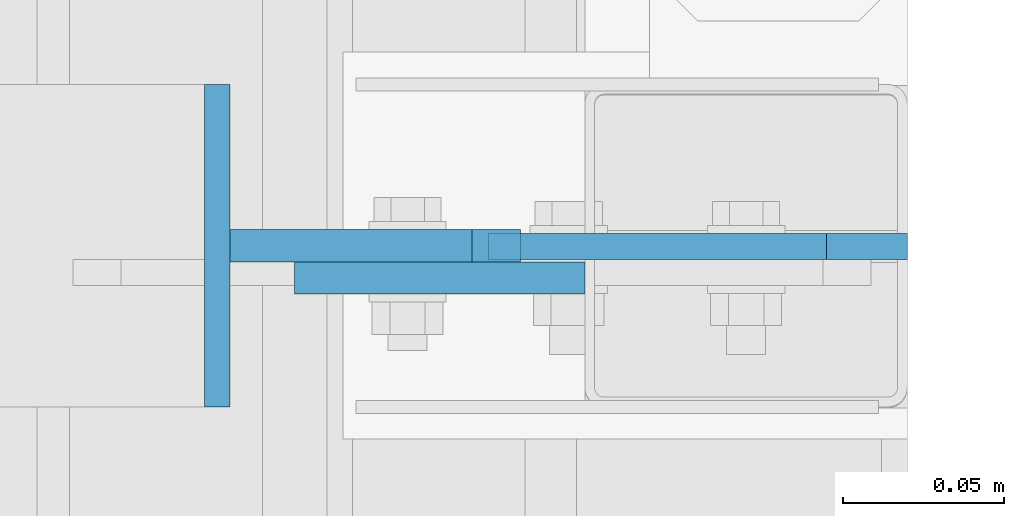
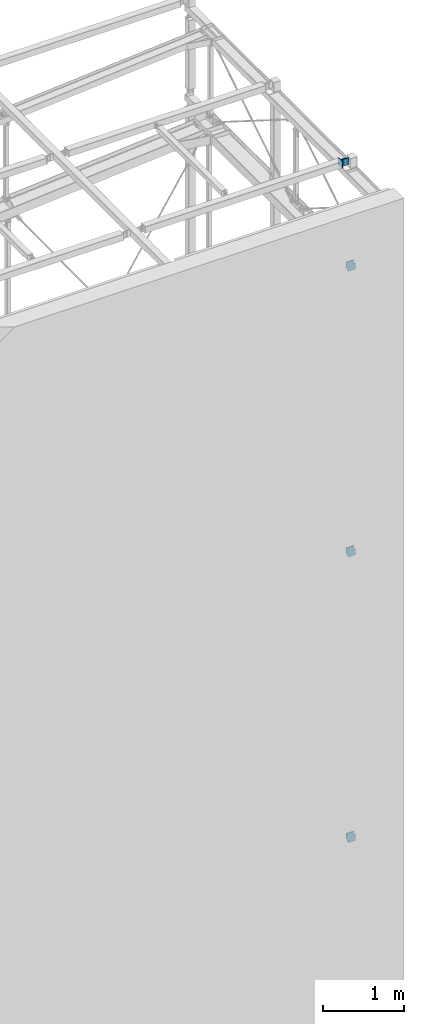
# One storey, part 165 of 271: 6 plates, 5 elements without a shape of their own.
"""IFC2X3 building model written with IfcOpenShell, lengths in millimetres."""

from ifc_helpers import new_model, si_unit, frame, origin_with_axes, place, context, subcontext, project, spatial, polyline, outline, extrude, material, type_object, element, aggregate, save


model = new_model("IFC2X3")

# Units and contexts
model_context = context("Model", 3, precision=1e-05, world=origin_with_axes())
body_context = subcontext(model_context, "Body", "Model", "MODEL_VIEW")
ifc_project = project(units=[si_unit("LENGTHUNIT", "METRE", prefix="MILLI"), si_unit("AREAUNIT", "SQUARE_METRE"), si_unit("VOLUMEUNIT", "CUBIC_METRE"), si_unit("MASSUNIT", "GRAM", prefix="KILO"), si_unit("TIMEUNIT", "SECOND"), si_unit("PLANEANGLEUNIT", "RADIAN"), si_unit("SOLIDANGLEUNIT", "STERADIAN"), si_unit("THERMODYNAMICTEMPERATUREUNIT", "DEGREE_CELSIUS"), si_unit("LUMINOUSINTENSITYUNIT", "LUMEN")], contexts=[model_context])

# Site, building, storey
site_placement = place(None, origin_with_axes())
site = spatial("IfcSite", under=ifc_project, at=site_placement, Name="Undefined", CompositionType="ELEMENT")
building_placement = place(site_placement, origin_with_axes())
building = spatial("IfcBuilding", under=site, at=building_placement, Name="Undefined", CompositionType="ELEMENT")
storey_placement = place(building_placement, origin_with_axes())
storey = spatial("IfcBuildingStorey", under=building, at=storey_placement, Name="Undefined", CompositionType="ELEMENT", Elevation=0.0)

# Assembly, plate
assembly_1_placement = place(storey_placement, origin_with_axes())
assembly_1 = element("IfcElementAssembly", 1, at=assembly_1_placement, inside=storey, AssemblyPlace="NOTDEFINED", PredefinedType="RIGID_FRAME")
ifc_material = material(Name="STEEL/S355JR")
plate_type_1 = type_object("IfcPlateType", Name="BL8*100", PredefinedType="NOTDEFINED")
plate_1_placement = place(assembly_1_placement, frame((12494.3756870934, 849.32498425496, 20204.3499999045), z_axis=(1.0, 0.0, 0.0), x_axis=(0.0, 0.0, -1.0)))
plate_1 = element("IfcPlate", 2, at=plate_1_placement, type_object=plate_type_1, material=ifc_material, Name="BLACHA", ObjectType="BL8*100", context=body_context, shape_type="SweptSolid", body=[
    extrude(outline(polyline([(0.0, 0.0), (100.0, 0.0), (100.0, 100.0), (1.59161572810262e-12, 100.0), (0.0, 0.0)])), frame((0.0, 0.0, -4.0), z_axis=(0.0, 0.0, 1.0), x_axis=(1.0, 0.0, 0.0)), (0.0, 0.0, 1.0), 8.0),
])

assembly_2_placement = place(storey_placement, origin_with_axes())
assembly_2 = element("IfcElementAssembly", 3, at=assembly_2_placement, inside=storey, AssemblyPlace="NOTDEFINED", PredefinedType="RIGID_FRAME")
plate_type_2 = type_object("IfcPlateType", Name="BL8*130", PredefinedType="NOTDEFINED")
plate_2_placement = place(assembly_2_placement, frame((12578.3756870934, 899.052119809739, 18476.8499999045), z_axis=(0.0, 1.0, 0.0), x_axis=(0.0, 0.0, 1.0)))
plate_2 = element("IfcPlate", 4, at=plate_2_placement, type_object=plate_type_2, material=ifc_material, Name="BLACHA", ObjectType="BL8*130", context=body_context, shape_type="SweptSolid", body=[
    extrude(outline(polyline([(0.0, 25.0), (70.0, -8.66862137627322e-13), (150.0, -1.68398628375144e-12), (150.0, 105.0), (90.0, 105.0), (90.0, 130.0), (-3.5527136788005e-14, 130.0), (0.0, 25.0)])), frame((0.0, 0.0, -4.0), z_axis=(0.0, 0.0, 1.0), x_axis=(1.0, 0.0, 0.0)), (0.0, 0.0, 1.0), 8.0),
])
aggregate(assembly_2, [plate_2])

assembly_3_placement = place(storey_placement, origin_with_axes())
assembly_3 = element("IfcElementAssembly", 5, at=assembly_3_placement, inside=storey, AssemblyPlace="NOTDEFINED", PredefinedType="RIGID_FRAME")
plate_3_placement = place(assembly_3_placement, frame((12578.3756870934, 899.052119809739, 14156.8499999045), z_axis=(0.0, 1.0, 0.0), x_axis=(0.0, 0.0, 1.0)))
plate_3 = element("IfcPlate", 6, at=plate_3_placement, type_object=plate_type_2, material=ifc_material, Name="BLACHA", ObjectType="BL8*130", context=body_context, shape_type="SweptSolid", body=[
    extrude(outline(polyline([(0.0, 25.0), (70.0, -8.66862137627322e-13), (150.0, -1.68398628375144e-12), (150.0, 105.0), (90.0, 105.0), (90.0, 130.0), (-3.5527136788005e-14, 130.0), (0.0, 25.0)])), frame((0.0, 0.0, -4.0), z_axis=(0.0, 0.0, 1.0), x_axis=(1.0, 0.0, 0.0)), (0.0, 0.0, 1.0), 8.0),
])
aggregate(assembly_3, [plate_3])

assembly_4_placement = place(storey_placement, origin_with_axes())
assembly_4 = element("IfcElementAssembly", 7, at=assembly_4_placement, inside=storey, AssemblyPlace="NOTDEFINED", PredefinedType="RIGID_FRAME")
plate_4_placement = place(assembly_4_placement, frame((12578.3756870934, 899.052119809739, 9836.84999990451), z_axis=(0.0, 1.0, 0.0), x_axis=(0.0, 0.0, 1.0)))
plate_4 = element("IfcPlate", 8, at=plate_4_placement, type_object=plate_type_2, material=ifc_material, Name="BLACHA", ObjectType="BL8*130", context=body_context, shape_type="SweptSolid", body=[
    extrude(outline(polyline([(0.0, 25.0), (70.0, -8.66862137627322e-13), (150.0, -1.68398628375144e-12), (150.0, 105.0), (90.0, 105.0), (90.0, 130.0), (-3.5527136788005e-14, 130.0), (0.0, 25.0)])), frame((0.0, 0.0, -4.0), z_axis=(0.0, 0.0, 1.0), x_axis=(1.0, 0.0, 0.0)), (0.0, 0.0, 1.0), 8.0),
])
aggregate(assembly_4, [plate_4])

# Plate
plate_type_3 = type_object("IfcPlateType", Name="BL10*90", PredefinedType="NOTDEFINED")
plate_5_placement = place(assembly_1_placement, frame((12573.3756870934, 899.32498425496, 20204.3499999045), z_axis=(0.0, 1.0, 0.0), x_axis=(0.70710678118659, 0.0, -0.707106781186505)))
plate_5 = element("IfcPlate", 9, at=plate_5_placement, type_object=plate_type_3, material=ifc_material, Name="BLACHA", ObjectType="BL10*90", context=body_context, shape_type="SweptSolid", body=[
    extrude(outline(polyline([(0.0, 0.0), (21.2132034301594, 1.09139364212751e-11), (70.7106781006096, 49.4974746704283), (70.7106781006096, 70.7106781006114), (17.6776695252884, 123.743690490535), (-53.033008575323, 53.0330085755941), (0.0, 0.0)])), frame((0.0, 0.0, -5.0), z_axis=(0.0, 0.0, 1.0), x_axis=(1.0, 0.0, 0.0)), (0.0, 0.0, 1.0), 10.0),
])

aggregate(assembly_1, [plate_1, plate_5])

# Assembly, plate
assembly_5_placement = place(storey_placement, origin_with_axes())
assembly_5 = element("IfcElementAssembly", 10, at=assembly_5_placement, inside=storey, AssemblyPlace="NOTDEFINED", PredefinedType="RIGID_FRAME")
plate_6_placement = place(assembly_5_placement, frame((12608.3756870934, 889.32498425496, 20204.3499999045), z_axis=(0.0, 1.0, 0.0), x_axis=(0.0, 0.0, -1.0)))
plate_6 = element("IfcPlate", 11, at=plate_6_placement, type_object=plate_type_3, material=ifc_material, Name="BLACHA", ObjectType="BL10*90", context=body_context, shape_type="SweptSolid", body=[
    extrude(outline(polyline([(0.0, 0.0), (100.0, 0.0), (100.0, 90.0), (0.0, 90.0), (0.0, 0.0)])), frame((0.0, 0.0, -5.0), z_axis=(0.0, 0.0, 1.0), x_axis=(1.0, 0.0, 0.0)), (0.0, 0.0, 1.0), 10.0),
])
aggregate(assembly_5, [plate_6])

save(model, "model.ifc")
